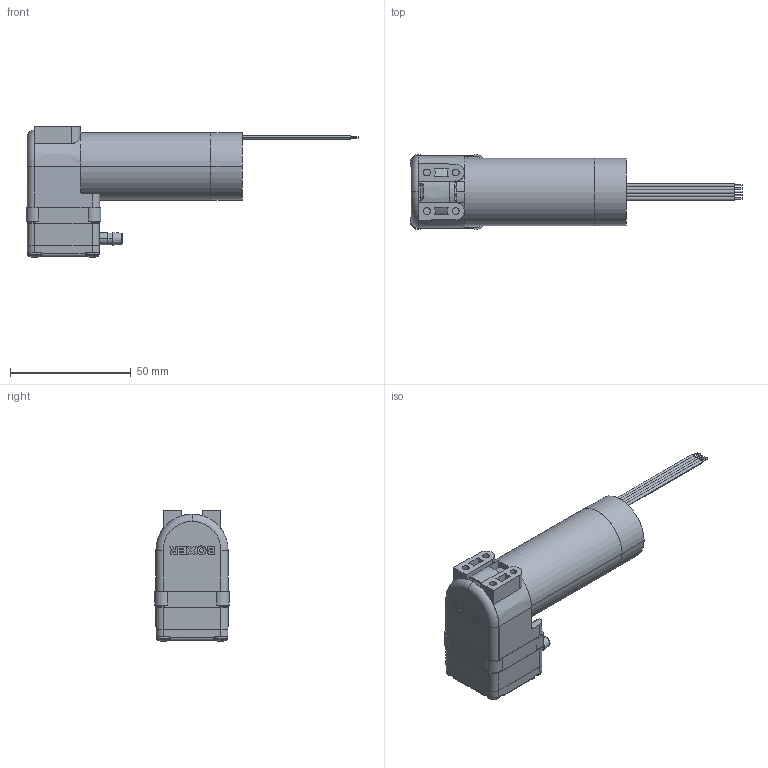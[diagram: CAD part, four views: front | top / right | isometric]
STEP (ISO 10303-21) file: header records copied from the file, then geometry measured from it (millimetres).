
FILE_DESCRIPTION (( 'STEP AP203' ), '1' );
FILE_NAME ('19K BLDC.STEP', '2017-09-18T15:20:01', ( '' ), ( '' ), 'SwSTEP 2.0', 'SolidWorks 2015', '' );
FILE_SCHEMA (( 'CONFIG_CONTROL_DESIGN' ));
Length unit declared in the file: millimetre
Products named in the file (19): 19 Gasket_19 Gasket Moulded; M3 c''sunk_M3X6; 19 C''Balance; 19K Valve Block_Mod 24_05_15; 19Ki 1 Valve Support; 19K Top Plate; 19K Body; 19K SS Disc; 3000 Valve_Valve O; BLDC3260 _2867 with driver; 19K BLDC; 19 Disc; Bearing MR148; 10-Diaphragm_Cut; Bearing_7X14X5; 19-Lid; 19K Camrod_Mod 18_10_16; No 3 Plastic Tapper PRST30-3_0X18_3.0x18; 19K Eccentric_1.0
Assembly tree (23 placements, depth 2):
  19K BLDC
    19K Body
    BLDC3260 _2867 with driver
    Bearing MR148
    Bearing_7X14X5
    19K Camrod_Mod 18_10_16
    19K Eccentric_1.0
    M3 c''sunk_M3X6  x3
    19K Valve Block_Mod 24_05_15
    19K Top Plate
    3000 Valve_Valve O
    19 Disc
    10-Diaphragm_Cut
    19-Lid
    No 3 Plastic Tapper PRST30-3_0X18_3.0x18  x4
    19 Gasket_19 Gasket Moulded
    19 C''Balance
    19Ki 1 Valve Support
    19K SS Disc
Bounding box: 137.7 x 31 x 54.26 mm (x, y, z)
Volume: 68807.1 mm3; surface area: 37769.3 mm2
Topology: 23 solids, 23 shells, 1702 faces, 4250 edges, 2637 vertices
Faces by surface type: plane 564, cone 387, cylinder 352, torus 213, bspline 164, sphere 22
Entity records: 54624 total; most frequent: CARTESIAN_POINT 16624, ORIENTED_EDGE 7602, DIRECTION 7544, EDGE_CURVE 3801, AXIS2_PLACEMENT_3D 3009, VERTEX_POINT 2377, EDGE_LOOP 1674, CIRCLE 1621
